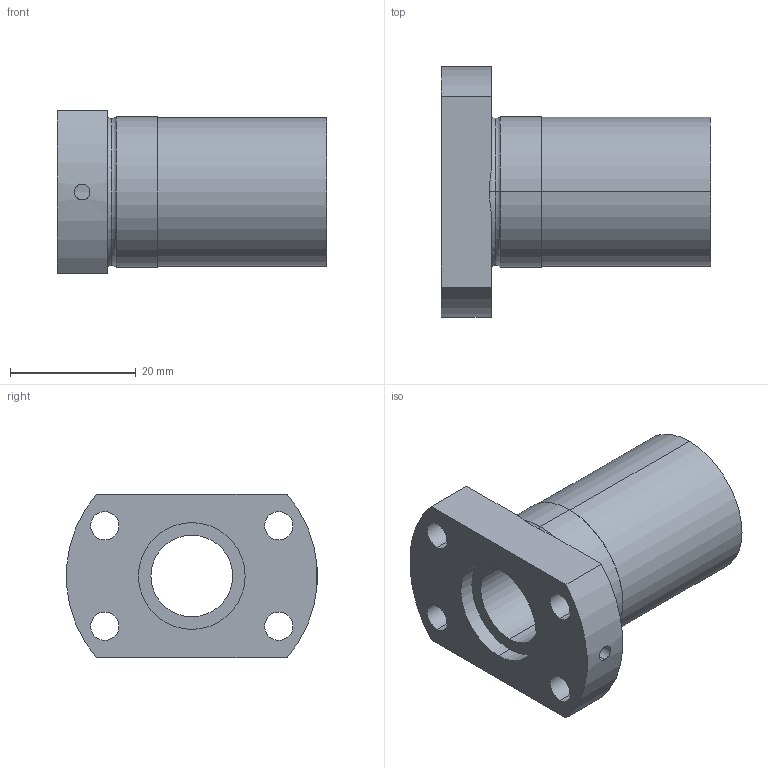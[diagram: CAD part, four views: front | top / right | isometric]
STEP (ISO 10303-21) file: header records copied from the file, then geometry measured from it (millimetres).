
FILE_DESCRIPTION (( 'STEP AP214' ), '1' );
FILE_NAME ('LLE1210-F.STEP', '2020-12-17T06:24:08', ( 'user' ), ( 'datathink' ), 'SwSTEP 2.0', 'SolidWorks 2013', '' );
FILE_SCHEMA (( 'AUTOMOTIVE_DESIGN' ));
Length unit declared in the file: millimetre
Products named in the file (1): LLE1210-F
Bounding box: 43 x 39.94 x 26 mm (x, y, z)
Volume: 16420.8 mm3; surface area: 7470.9 mm2
Topology: 1 solids, 1 shells, 35 faces, 86 edges, 56 vertices
Faces by surface type: cylinder 22, plane 9, torus 4
Entity records: 1234 total; most frequent: CARTESIAN_POINT 292, DIRECTION 198, ORIENTED_EDGE 172, EDGE_CURVE 86, AXIS2_PLACEMENT_3D 84, VERTEX_POINT 56, EDGE_LOOP 50, CIRCLE 48
